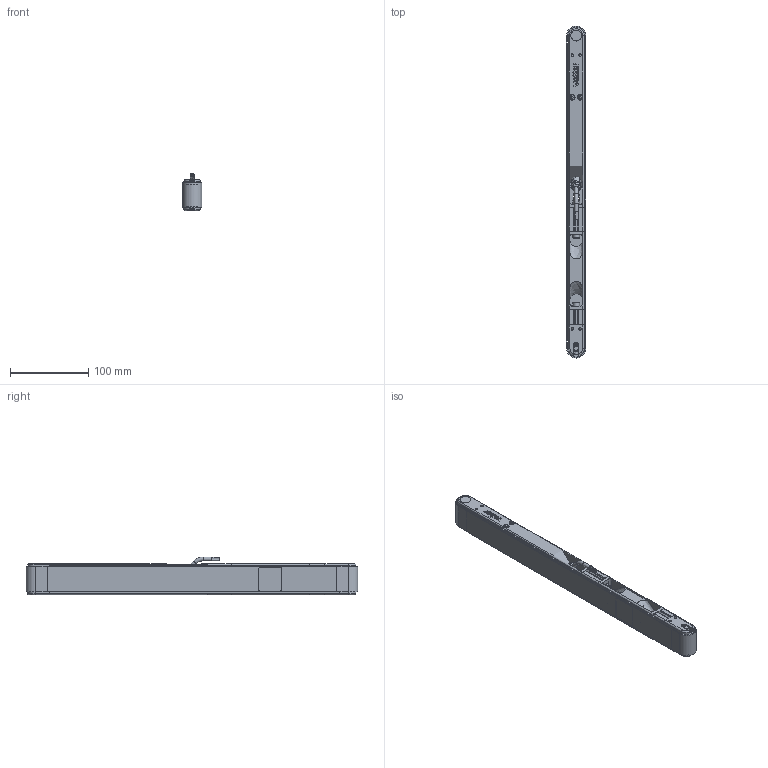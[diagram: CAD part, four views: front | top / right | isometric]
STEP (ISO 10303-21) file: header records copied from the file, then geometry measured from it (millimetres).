
FILE_DESCRIPTION(/* description */ (''),/* implementation_level */ '2;1');
FILE_NAME(/* name */ 'G:\DATEN\CAD\Förderband\Marketing\3D-Modelle (Standard)\FR-20-40\FR-20-40-DL-400-300-K.stp',/* time_stamp */ '2019-05-07T15:08:59+02:00',/* author */ ('melanie.ochs'),/* organization */ (''),/* preprocessor_version */ 'ST-DEVELOPER v17',/* originating_system */ 'Autodesk Inventor 2019',/* authorisation */ '');
FILE_SCHEMA (('CONFIG_CONTROL_DESIGN'));
Length unit declared in the file: millimetre
Products named in the file (1): FR-20-40-DL-400-300-K
Bounding box: 24.9 x 424.4 x 48.55 mm (x, y, z)
Volume: 308459.7 mm3; surface area: 171889.2 mm2
Topology: 9 solids, 22 shells, 1026 faces, 2806 edges, 1893 vertices
Faces by surface type: plane 537, cylinder 310, cone 84, bspline 65, torus 30
Full cylindrical faces by diameter (mm): 1 x6, 1.567 x1, 1.57 x3, 2.459 x2, 2.5 x2, 3.242 x15, 4 x13, 4.3 x4, 4.5 x2, 4.917 x1, 5 x14, 5.5 x8, 6.647 x1, 7 x6, 8 x2, 8.5 x8, 8.773 x1, 9 x2, 9.6 x2, 10 x4, 11 x1, 12 x1, 14 x4, 16 x2, 22 x3
Entity records: 34418 total; most frequent: CARTESIAN_POINT 7216, ORIENTED_EDGE 5534, DIRECTION 5349, EDGE_CURVE 2767, VERTEX_POINT 1891, AXIS2_PLACEMENT_3D 1890, LINE 1569, VECTOR 1569
